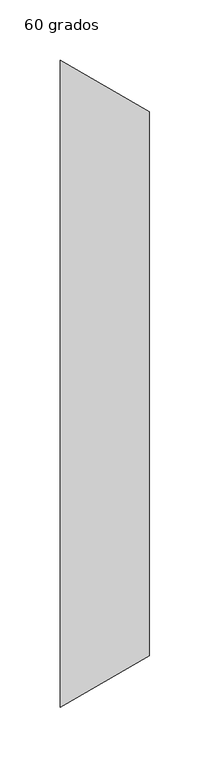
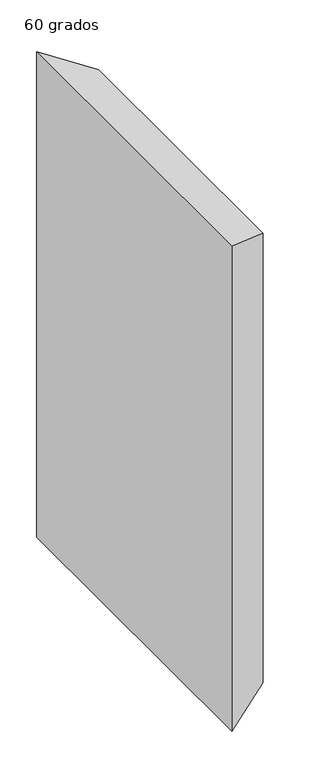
"""IFC4 building model written with IfcOpenShell, lengths in millimetres: duct fitting geometry, M_Transición rectangular - Ángulo : 60 grados."""

from ifc_helpers import new_model, si_unit, origin, place, context, project, spatial, faceted_brep, source, transform, mapped, element, save


def duct_fitting_60_grados_9c25fc81(model_context):
    return source(origin(), model_context, "Body", "Brep", [
        faceted_brep([(73.6121593, -225.0, 375.0), (73.6121593, -225.0, -375.0), (73.6121593, 225.0, -375.0), (73.6121593, 225.0, 375.0), (0.0, -267.5, 405.0), (0.0, 267.5, 405.0), (0.0, 267.5, -405.0), (0.0, -267.5, -405.0)], [[[0, 1, 2, 3]], [[4, 5, 6, 7]], [[4, 7, 1, 0]], [[7, 6, 2, 1]], [[6, 5, 3, 2]], [[5, 4, 0, 3]]]),
    ])


if __name__ == "__main__":
    model = new_model("IFC4")
    model_context = context("Model", 3, world=origin())
    ifc_project = project(units=[si_unit("LENGTHUNIT", "METRE", prefix="MILLI")], contexts=[model_context])
    site = spatial("IfcSite", under=ifc_project)
    building = spatial("IfcBuilding", under=site)
    placement = place(None, origin())
    duct_fitting_60_grados_shape = duct_fitting_60_grados_9c25fc81(model_context)
    element("IfcDuctFitting", 1, ObjectType="M_Transición rectangular - Ángulo : 60 grados", at=placement, inside=building, context=model_context, shape_type="MappedRepresentation", body=[
        mapped(duct_fitting_60_grados_shape, transform((0.0, 0.0, 0.0), x_axis=(1.0, 0.0, 0.0), y_axis=(0.0, 1.0, 0.0), z_axis=(0.0, 0.0, 1.0))),
    ])
    save(model, "model.ifc")
